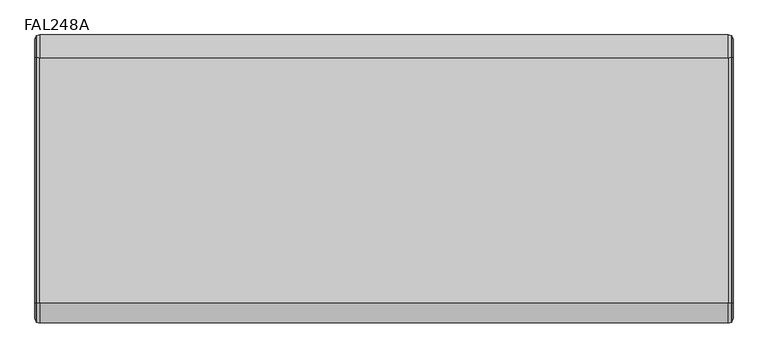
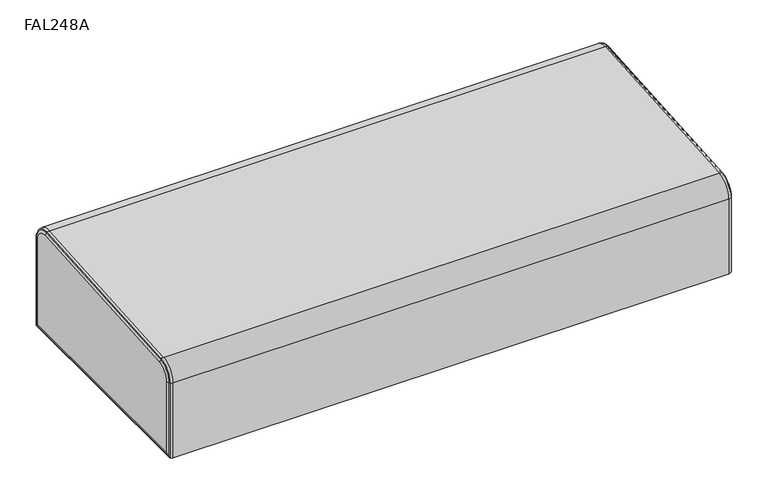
"""IFC4 building model written with IfcOpenShell, lengths in millimetres: furniture geometry, Stance_HC-Flora-Seat_Straight-Double_Side : FAL248A."""

from ifc_helpers import new_model, si_unit, point, frame, origin, place, context, project, spatial, circle_curve, ellipse_curve, trimmed, source, transform, mapped, element, save
from ifc_brep_helpers import plane_surface, cylinder_surface, revolved_surface, advanced_brep


def fal248a_34353e28(model_context):
    return source(origin(), model_context, "Body", "AdvancedBrep", [
        advanced_brep(
        [(8.4841935, 726.7564754, 401.7640675), (1223.4158065, 726.7564754, 401.7640675), (1223.4158065, 726.7564754, 198.4374939), (8.4841935, 726.7564754, 198.4374939), (1223.4158065, 218.7564511, 198.4374939), (8.4841935, 218.7564511, 198.4374939), (1223.4158065, 218.7564511, 371.5696858), (8.4841935, 218.7564511, 371.5696858), (8.4841935, 254.198731, 409.5768762), (1223.4158065, 254.198731, 409.5768762), (1223.4158065, 685.9987552, 439.7712579), (8.4841935, 685.9987552, 439.7712579), (0.0, 718.0252254, 401.7640675), (2.6434528, 723.7181949, 401.7640675), (2.6434528, 723.7181949, 201.4757744), (0.0, 718.0252254, 207.1687439), (2.5810757, 725.6518846, 401.7640675), (2.5810757, 725.6518846, 199.5420847), (2.6434528, 221.7947316, 201.4757744), (0.0, 227.4877011, 207.1687439), (2.5810757, 219.8610419, 199.5420847), (2.6434528, 221.7947316, 371.5696858), (0.0, 227.4877011, 371.5696858), (2.5810757, 219.8610419, 371.5696858), (0.0, 254.8077919, 400.8668951), (2.6434528, 254.4106706, 406.5459969), (2.6434528, 686.2106948, 436.7403786), (0.0, 686.6078161, 431.0612768), (2.5810757, 254.2757833, 408.4749762), (2.5810757, 686.0758075, 438.6693579), (1229.3189243, 725.6518846, 401.7640675), (1229.3189243, 725.6518846, 199.5420847), (1229.2565472, 723.7181949, 401.7640675), (1229.2565472, 723.7181949, 201.4757744), (1231.9, 718.0252254, 401.7640675), (1231.9, 718.0252254, 207.1687439), (1229.3189243, 219.8610419, 199.5420847), (1229.2565472, 221.7947316, 201.4757744), (1231.9, 227.4877011, 207.1687439), (1229.3189243, 219.8610419, 371.5696858), (1229.2565472, 221.7947316, 371.5696858), (1231.9, 227.4877011, 371.5696858), (1229.3189243, 254.2757833, 408.4749762), (1229.3189243, 686.0758075, 438.6693579), (1229.2565472, 254.4106706, 406.5459969), (1229.2565472, 686.2106948, 436.7403786), (1231.9, 254.8077919, 400.8668951), (1231.9, 686.6078161, 431.0612768)],
        [
            (0, 1),
            (1, 2),
            (2, 3),
            (3, 0),
            (2, 4),
            (4, 5),
            (5, 3),
            (4, 6),
            (6, 7),
            (7, 5),
            (8, 9),
            (9, 10),
            (10, 11),
            (11, 8),
            (12, 13, circle_curve(frame((7.4519478, 718.0252254, 401.7640675), z_axis=(0.0, 0.0, -1.0), x_axis=(0.0, 1.0, 0.0)), 7.4519478)),
            (13, 14),
            (14, 15, ellipse_curve(frame((7.4519478, 718.0252254, 207.1687439), z_axis=(0.0, 0.7071067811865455, 0.7071067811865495), x_axis=(0.0, -0.7071067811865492, 0.7071067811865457)), 10.5386456, 7.4519478)),
            (15, 12),
            (13, 16, circle_curve(frame((2.9517888, 724.6959921, 401.7640675), z_axis=(0.0, 0.0, -1.0), x_axis=(0.0, 1.0, 0.0)), 1.0252602)),
            (16, 17),
            (17, 14, ellipse_curve(frame((2.9517888, 724.6959921, 200.4979772), z_axis=(0.0, 0.7071067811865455, 0.7071067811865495), x_axis=(0.0, -0.7071067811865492, 0.7071067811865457)), 1.4499369, 1.0252602)),
            (3, 17, ellipse_curve(frame((8.4841935, 710.4305563, 214.763413), z_axis=(0.0, 0.7071067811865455, 0.7071067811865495), x_axis=(0.0, -0.7071067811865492, 0.7071067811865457)), 23.0883362, 16.3259191)),
            (16, 0, circle_curve(frame((8.4841935, 710.4305563, 401.7640675), z_axis=(0.0, 0.0, -1.0), x_axis=(0.0, 1.0, 0.0)), 16.3259191)),
            (14, 18),
            (18, 19, ellipse_curve(frame((7.4519478, 227.4877011, 207.1687439), z_axis=(0.0, 0.7071067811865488, -0.7071067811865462), x_axis=(0.0, 0.7071067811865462, 0.7071067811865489)), 10.5386456, 7.4519478)),
            (19, 15),
            (17, 20),
            (20, 18, ellipse_curve(frame((2.9517888, 220.8169344, 200.4979772), z_axis=(0.0, 0.7071067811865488, -0.7071067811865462), x_axis=(0.0, 0.7071067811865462, 0.7071067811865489)), 1.4499369, 1.0252602)),
            (5, 20, ellipse_curve(frame((8.4841935, 235.0823702, 214.763413), z_axis=(0.0, 0.7071067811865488, -0.7071067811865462), x_axis=(0.0, 0.7071067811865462, 0.7071067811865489)), 23.0883362, 16.3259191)),
            (18, 21),
            (21, 22, circle_curve(frame((7.4519478, 227.4877011, 371.5696858), z_axis=(0.0, 0.0, -1.0), x_axis=(0.0, -1.0, 0.0)), 7.4519478)),
            (22, 19),
            (20, 23),
            (23, 21, circle_curve(frame((2.9517888, 220.8169344, 371.5696858), z_axis=(0.0, 0.0, -1.0), x_axis=(0.0, -1.0, 0.0)), 1.0252602)),
            (7, 23, circle_curve(frame((8.4841935, 235.0823702, 371.5696858), z_axis=(0.0, 0.0, -1.0), x_axis=(0.0, -1.0, 0.0)), 16.3259191)),
            (24, 25, circle_curve(frame((7.4519478, 254.8077919, 400.8668951), z_axis=(0.0, 0.9975640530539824, 0.06975643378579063), x_axis=(0.0, -0.06975643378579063, 0.9975640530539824)), 7.4519478)),
            (25, 26),
            (26, 27, circle_curve(frame((7.4519478, 686.6078161, 431.0612768), z_axis=(0.0, -0.9975640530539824, -0.06975643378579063), x_axis=(0.0, -0.06975643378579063, 0.9975640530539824)), 7.4519478)),
            (27, 24),
            (25, 28, circle_curve(frame((2.9517888, 254.342463, 407.5214122), z_axis=(0.0, 0.9975640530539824, 0.06975643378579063), x_axis=(0.0, -0.06975643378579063, 0.9975640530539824)), 1.0252602)),
            (28, 29),
            (29, 26, circle_curve(frame((2.9517888, 686.1424872, 437.7157939), z_axis=(0.0, -0.9975640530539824, -0.06975643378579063), x_axis=(0.0, -0.06975643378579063, 0.9975640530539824)), 1.0252602)),
            (11, 29, circle_curve(frame((8.4841935, 687.1375931, 423.4851079), z_axis=(0.0, -0.9975640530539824, -0.06975643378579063), x_axis=(0.0, -0.06975643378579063, 0.9975640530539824)), 16.3259191)),
            (28, 8, circle_curve(frame((8.4841935, 255.3375689, 393.2907262), z_axis=(0.0, 0.9975640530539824, 0.06975643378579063), x_axis=(0.0, -0.06975643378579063, 0.9975640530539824)), 16.3259191)),
            (1, 30, circle_curve(frame((1223.4158065, 710.4305563, 401.7640675), z_axis=(0.0, 0.0, -1.0), x_axis=(0.0, 1.0, 0.0)), 16.3259191)),
            (30, 31),
            (31, 2, ellipse_curve(frame((1223.4158065, 710.4305563, 214.763413), z_axis=(0.0, 0.7071067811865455, 0.7071067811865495), x_axis=(0.0, -0.7071067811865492, 0.7071067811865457)), 23.0883362, 16.3259191)),
            (30, 32, circle_curve(frame((1228.9482112, 724.6959921, 401.7640675), z_axis=(0.0, 0.0, -1.0), x_axis=(0.0, 1.0, 0.0)), 1.0252602)),
            (32, 33),
            (33, 31, ellipse_curve(frame((1228.9482112, 724.6959921, 200.4979772), z_axis=(0.0, 0.7071067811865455, 0.7071067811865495), x_axis=(0.0, -0.7071067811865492, 0.7071067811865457)), 1.4499369, 1.0252602)),
            (32, 34, circle_curve(frame((1224.4480522, 718.0252254, 401.7640675), z_axis=(0.0, 0.0, -1.0), x_axis=(0.0, 1.0, 0.0)), 7.4519478)),
            (34, 35),
            (35, 33, ellipse_curve(frame((1224.4480522, 718.0252254, 207.1687439), z_axis=(0.0, 0.7071067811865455, 0.7071067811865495), x_axis=(0.0, -0.7071067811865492, 0.7071067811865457)), 10.5386456, 7.4519478)),
            (31, 36),
            (36, 4, ellipse_curve(frame((1223.4158065, 235.0823702, 214.763413), z_axis=(0.0, 0.7071067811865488, -0.7071067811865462), x_axis=(0.0, 0.7071067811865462, 0.7071067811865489)), 23.0883362, 16.3259191)),
            (33, 37),
            (37, 36, ellipse_curve(frame((1228.9482112, 220.8169344, 200.4979772), z_axis=(0.0, 0.7071067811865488, -0.7071067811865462), x_axis=(0.0, 0.7071067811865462, 0.7071067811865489)), 1.4499369, 1.0252602)),
            (35, 38),
            (38, 37, ellipse_curve(frame((1224.4480522, 227.4877011, 207.1687439), z_axis=(0.0, 0.7071067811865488, -0.7071067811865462), x_axis=(0.0, 0.7071067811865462, 0.7071067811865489)), 10.5386456, 7.4519478)),
            (36, 39),
            (39, 6, circle_curve(frame((1223.4158065, 235.0823702, 371.5696858), z_axis=(0.0, 0.0, -1.0), x_axis=(0.0, -1.0, 0.0)), 16.3259191)),
            (37, 40),
            (40, 39, circle_curve(frame((1228.9482112, 220.8169344, 371.5696858), z_axis=(0.0, 0.0, -1.0), x_axis=(0.0, -1.0, 0.0)), 1.0252602)),
            (38, 41),
            (41, 40, circle_curve(frame((1224.4480522, 227.4877011, 371.5696858), z_axis=(0.0, 0.0, -1.0), x_axis=(0.0, -1.0, 0.0)), 7.4519478)),
            (9, 42, circle_curve(frame((1223.4158065, 255.3375689, 393.2907262), z_axis=(0.0, 0.9975640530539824, 0.06975643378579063), x_axis=(0.0, -0.06975643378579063, 0.9975640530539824)), 16.3259191)),
            (42, 43),
            (43, 10, circle_curve(frame((1223.4158065, 687.1375931, 423.4851079), z_axis=(0.0, -0.9975640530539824, -0.06975643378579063), x_axis=(0.0, -0.06975643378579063, 0.9975640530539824)), 16.3259191)),
            (42, 44, circle_curve(frame((1228.9482112, 254.342463, 407.5214122), z_axis=(0.0, 0.9975640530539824, 0.06975643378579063), x_axis=(0.0, -0.06975643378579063, 0.9975640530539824)), 1.0252602)),
            (44, 45),
            (45, 43, circle_curve(frame((1228.9482112, 686.1424872, 437.7157939), z_axis=(0.0, -0.9975640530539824, -0.06975643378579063), x_axis=(0.0, -0.06975643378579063, 0.9975640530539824)), 1.0252602)),
            (44, 46, circle_curve(frame((1224.4480522, 254.8077919, 400.8668951), z_axis=(0.0, 0.9975640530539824, 0.06975643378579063), x_axis=(0.0, -0.06975643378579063, 0.9975640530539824)), 7.4519478)),
            (46, 47),
            (47, 45, circle_curve(frame((1224.4480522, 686.6078161, 431.0612768), z_axis=(0.0, -0.9975640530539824, -0.06975643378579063), x_axis=(0.0, -0.06975643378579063, 0.9975640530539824)), 7.4519478)),
            (1, 10, circle_curve(frame((1223.4158065, 688.6564754, 401.7640675), z_axis=(1.0, 0.0, 0.0), x_axis=(0.0, -0.06975643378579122, 0.9975640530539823)), 38.1)),
            (43, 30, circle_curve(frame((1229.3189243, 688.6564754, 401.7640675), z_axis=(-1.0, 0.0, 0.0), x_axis=(0.0, -0.06975643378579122, 0.9975640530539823)), 36.9954092)),
            (45, 32, circle_curve(frame((1229.2565472, 688.6564754, 401.7640675), z_axis=(-1.0, 0.0, 0.0), x_axis=(0.0, -0.06975643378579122, 0.9975640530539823)), 35.0617195)),
            (47, 34, circle_curve(frame((1231.9, 688.6564754, 401.7640675), z_axis=(-1.0, 0.0, 0.0), x_axis=(0.0, -0.06975643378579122, 0.9975640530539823)), 29.36875)),
            (12, 27, circle_curve(frame((0.0, 688.6564754, 401.7640675), z_axis=(1.0, 0.0, 0.0), x_axis=(0.0, -0.06975643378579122, 0.9975640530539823)), 29.36875)),
            (26, 13, circle_curve(frame((2.6434528, 688.6564754, 401.7640675), z_axis=(-1.0, 0.0, 0.0), x_axis=(0.0, -0.06975643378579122, 0.9975640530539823)), 35.0617195)),
            (29, 16, circle_curve(frame((2.5810757, 688.6564754, 401.7640675), z_axis=(-1.0, 0.0, 0.0), x_axis=(0.0, -0.06975643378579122, 0.9975640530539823)), 36.9954092)),
            (11, 0, circle_curve(frame((8.4841935, 688.6564754, 401.7640675), z_axis=(-1.0, 0.0, 0.0), x_axis=(0.0, -0.06975643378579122, 0.9975640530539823)), 38.1)),
            (39, 42, circle_curve(frame((1229.3189243, 256.8564511, 371.5696858), z_axis=(-1.0, 0.0, 0.0), x_axis=(0.0, -1.0, 0.0)), 36.9954092)),
            (9, 6, circle_curve(frame((1223.4158065, 256.8564511, 371.5696858), z_axis=(1.0, 0.0, 0.0), x_axis=(0.0, -1.0, 0.0)), 38.1)),
            (40, 44, circle_curve(frame((1229.2565472, 256.8564511, 371.5696858), z_axis=(-1.0, 0.0, 0.0), x_axis=(0.0, -1.0, 0.0)), 35.0617195)),
            (41, 46, circle_curve(frame((1231.9, 256.8564511, 371.5696858), z_axis=(-1.0, 0.0, 0.0), x_axis=(0.0, -1.0, 0.0)), 29.36875)),
            (21, 25, circle_curve(frame((2.6434528, 256.8564511, 371.5696858), z_axis=(-1.0, 0.0, 0.0), x_axis=(0.0, -1.0, 0.0)), 35.0617195)),
            (24, 22, circle_curve(frame((0.0, 256.8564511, 371.5696858), z_axis=(1.0, 0.0, 0.0), x_axis=(0.0, -1.0, 0.0)), 29.36875)),
            (23, 28, circle_curve(frame((2.5810757, 256.8564511, 371.5696858), z_axis=(-1.0, 0.0, 0.0), x_axis=(0.0, -1.0, 0.0)), 36.9954092)),
            (7, 8, circle_curve(frame((8.4841935, 256.8564511, 371.5696858), z_axis=(-1.0, 0.0, 0.0), x_axis=(0.0, -1.0, 0.0)), 38.1)),
        ],
        [
            plane_surface(frame((1223.4158065, 726.7564754, 401.7640675), z_axis=(0.0, 1.0, 0.0), x_axis=(0.0, 0.0, -1.0))),
            plane_surface(frame((1223.4158065, 726.7564754, 198.4374939), z_axis=(0.0, 0.0, -1.0), x_axis=(0.0, -1.0, 0.0))),
            plane_surface(frame((1223.4158065, 218.7564511, 198.4374939), z_axis=(0.0, -1.0, 0.0), x_axis=(0.0, 0.0, 1.0))),
            plane_surface(frame((1223.4158065, 254.198731, 409.5768762), z_axis=(0.0, -0.06975643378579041, 0.9975640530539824), x_axis=(0.0, 0.9975640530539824, 0.06975643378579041))),
            cylinder_surface(frame((7.4519478, 718.0252254, 401.7640675), z_axis=(0.0, 0.0, 1.0), x_axis=(0.0, 1.0, 0.0)), 7.4519478),
            cylinder_surface(frame((2.9517888, 724.6959921, 401.7640675), z_axis=(0.0, 0.0, 1.0), x_axis=(0.0, 1.0, 0.0)), 1.0252602),
            cylinder_surface(frame((8.4841935, 710.4305563, 401.7640675), z_axis=(0.0, 0.0, 1.0), x_axis=(0.0, 1.0, 0.0)), 16.3259191),
            cylinder_surface(frame((7.4519478, 726.7564754, 207.1687439), z_axis=(0.0, 1.0, 0.0), x_axis=(0.0, 0.0, -1.0)), 7.4519478),
            cylinder_surface(frame((2.9517888, 726.7564754, 200.4979772), z_axis=(0.0, 1.0, 0.0), x_axis=(0.0, 0.0, -1.0)), 1.0252602),
            cylinder_surface(frame((8.4841935, 726.7564754, 214.763413), z_axis=(0.0, 1.0, 0.0), x_axis=(0.0, 0.0, -1.0)), 16.3259191),
            cylinder_surface(frame((7.4519478, 227.4877011, 198.4374939), z_axis=(0.0, 0.0, -1.0), x_axis=(0.0, -1.0, 0.0)), 7.4519478),
            cylinder_surface(frame((2.9517888, 220.8169344, 198.4374939), z_axis=(0.0, 0.0, -1.0), x_axis=(0.0, -1.0, 0.0)), 1.0252602),
            cylinder_surface(frame((8.4841935, 235.0823702, 198.4374939), z_axis=(0.0, 0.0, -1.0), x_axis=(0.0, -1.0, 0.0)), 16.3259191),
            cylinder_surface(frame((7.4519478, 254.8077919, 400.8668951), z_axis=(0.0, -0.9975640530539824, -0.06975643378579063), x_axis=(0.0, -0.06975643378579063, 0.9975640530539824)), 7.4519478),
            cylinder_surface(frame((2.9517888, 254.342463, 407.5214122), z_axis=(0.0, -0.9975640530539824, -0.06975643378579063), x_axis=(0.0, -0.06975643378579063, 0.9975640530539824)), 1.0252602),
            cylinder_surface(frame((8.4841935, 255.3375689, 393.2907262), z_axis=(0.0, -0.9975640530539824, -0.06975643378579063), x_axis=(0.0, -0.06975643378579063, 0.9975640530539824)), 16.3259191),
            cylinder_surface(frame((1223.4158065, 710.4305563, 401.7640675), z_axis=(0.0, 0.0, 1.0), x_axis=(0.0, 1.0, 0.0)), 16.3259191),
            cylinder_surface(frame((1228.9482112, 724.6959921, 401.7640675), z_axis=(0.0, 0.0, 1.0), x_axis=(0.0, 1.0, 0.0)), 1.0252602),
            cylinder_surface(frame((1224.4480522, 718.0252254, 401.7640675), z_axis=(0.0, 0.0, 1.0), x_axis=(0.0, 1.0, 0.0)), 7.4519478),
            cylinder_surface(frame((1223.4158065, 726.7564754, 214.763413), z_axis=(0.0, 1.0, 0.0), x_axis=(0.0, 0.0, -1.0)), 16.3259191),
            cylinder_surface(frame((1228.9482112, 726.7564754, 200.4979772), z_axis=(0.0, 1.0, 0.0), x_axis=(0.0, 0.0, -1.0)), 1.0252602),
            cylinder_surface(frame((1224.4480522, 726.7564754, 207.1687439), z_axis=(0.0, 1.0, 0.0), x_axis=(0.0, 0.0, -1.0)), 7.4519478),
            cylinder_surface(frame((1223.4158065, 235.0823702, 198.4374939), z_axis=(0.0, 0.0, -1.0), x_axis=(0.0, -1.0, 0.0)), 16.3259191),
            cylinder_surface(frame((1228.9482112, 220.8169344, 198.4374939), z_axis=(0.0, 0.0, -1.0), x_axis=(0.0, -1.0, 0.0)), 1.0252602),
            cylinder_surface(frame((1224.4480522, 227.4877011, 198.4374939), z_axis=(0.0, 0.0, -1.0), x_axis=(0.0, -1.0, 0.0)), 7.4519478),
            cylinder_surface(frame((1223.4158065, 255.3375689, 393.2907262), z_axis=(0.0, -0.9975640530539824, -0.06975643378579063), x_axis=(0.0, -0.06975643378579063, 0.9975640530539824)), 16.3259191),
            cylinder_surface(frame((1228.9482112, 254.342463, 407.5214122), z_axis=(0.0, -0.9975640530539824, -0.06975643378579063), x_axis=(0.0, -0.06975643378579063, 0.9975640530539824)), 1.0252602),
            cylinder_surface(frame((1224.4480522, 254.8077919, 400.8668951), z_axis=(0.0, -0.9975640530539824, -0.06975643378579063), x_axis=(0.0, -0.06975643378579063, 0.9975640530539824)), 7.4519478),
            revolved_surface(trimmed(ellipse_curve(frame((1223.4158065, 687.1375931, 423.4851079), z_axis=(0.0, -0.9975640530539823, -0.06975643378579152), x_axis=(0.0, -0.06975643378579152, 0.9975640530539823)), 16.3259191, 16.3259191), [point((1229.3189243, 686.0758075, 438.6693579))], [point((1223.4158065, 685.9987552, 439.7712579))], True, "CARTESIAN"), (0.0, 688.6564754, 401.7640675), (-1.0, 0.0, 0.0)),
            revolved_surface(trimmed(ellipse_curve(frame((1228.9482112, 686.1424872, 437.7157939), z_axis=(0.0, -0.9975640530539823, -0.06975643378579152), x_axis=(0.0, -0.06975643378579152, 0.9975640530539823)), 1.0252602, 1.0252602), [point((1229.2565472, 686.2106948, 436.7403786))], [point((1229.3189243, 686.0758075, 438.6693579))], True, "CARTESIAN"), (0.0, 688.6564754, 401.7640675), (-1.0, 0.0, 0.0)),
            revolved_surface(trimmed(ellipse_curve(frame((1224.4480522, 686.6078161, 431.0612768), z_axis=(0.0, -0.9975640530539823, -0.06975643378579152), x_axis=(0.0, -0.06975643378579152, 0.9975640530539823)), 7.4519478, 7.4519478), [point((1231.9, 686.6078161, 431.0612768))], [point((1229.2565472, 686.2106948, 436.7403786))], True, "CARTESIAN"), (0.0, 688.6564754, 401.7640675), (-1.0, 0.0, 0.0)),
            revolved_surface(trimmed(ellipse_curve(frame((7.4519478, 686.6078161, 431.0612768), z_axis=(0.0, -0.9975640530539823, -0.06975643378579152), x_axis=(0.0, -0.06975643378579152, 0.9975640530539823)), 7.4519478, 7.4519478), [point((2.6434528, 686.2106948, 436.7403786))], [point((0.0, 686.6078161, 431.0612768))], True, "CARTESIAN"), (0.0, 688.6564754, 401.7640675), (-1.0, 0.0, 0.0)),
            revolved_surface(trimmed(ellipse_curve(frame((2.9517888, 686.1424872, 437.7157939), z_axis=(0.0, -0.9975640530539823, -0.06975643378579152), x_axis=(0.0, -0.06975643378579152, 0.9975640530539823)), 1.0252602, 1.0252602), [point((2.5810757, 686.0758075, 438.6693579))], [point((2.6434528, 686.2106948, 436.7403786))], True, "CARTESIAN"), (0.0, 688.6564754, 401.7640675), (-1.0, 0.0, 0.0)),
            revolved_surface(trimmed(ellipse_curve(frame((8.4841935, 687.1375931, 423.4851079), z_axis=(0.0, -0.9975640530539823, -0.06975643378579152), x_axis=(0.0, -0.06975643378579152, 0.9975640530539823)), 16.3259191, 16.3259191), [point((8.4841935, 685.9987552, 439.7712579))], [point((2.5810757, 686.0758075, 438.6693579))], True, "CARTESIAN"), (0.0, 688.6564754, 401.7640675), (-1.0, 0.0, 0.0)),
            cylinder_surface(frame((0.0, 688.6564754, 401.7640675), z_axis=(-1.0, 0.0, 0.0), x_axis=(0.0, -0.06975643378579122, 0.9975640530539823)), 38.1),
            revolved_surface(trimmed(ellipse_curve(frame((1223.4158065, 235.0823702, 371.5696858), z_axis=(0.0, 0.0, -1.0), x_axis=(0.0, -1.0, 0.0)), 16.3259191, 16.3259191), [point((1229.3189243, 219.8610419, 371.5696858))], [point((1223.4158065, 218.7564511, 371.5696858))], True, "CARTESIAN"), (0.0, 256.8564511, 371.5696858), (-1.0, 0.0, 0.0)),
            revolved_surface(trimmed(ellipse_curve(frame((1228.9482112, 220.8169344, 371.5696858), z_axis=(0.0, 0.0, -1.0), x_axis=(0.0, -1.0, 0.0)), 1.0252602, 1.0252602), [point((1229.2565472, 221.7947316, 371.5696858))], [point((1229.3189243, 219.8610419, 371.5696858))], True, "CARTESIAN"), (0.0, 256.8564511, 371.5696858), (-1.0, 0.0, 0.0)),
            revolved_surface(trimmed(ellipse_curve(frame((1224.4480522, 227.4877011, 371.5696858), z_axis=(0.0, 0.0, -1.0), x_axis=(0.0, -1.0, 0.0)), 7.4519478, 7.4519478), [point((1231.9, 227.4877011, 371.5696858))], [point((1229.2565472, 221.7947316, 371.5696858))], True, "CARTESIAN"), (0.0, 256.8564511, 371.5696858), (-1.0, 0.0, 0.0)),
            revolved_surface(trimmed(ellipse_curve(frame((7.4519478, 227.4877011, 371.5696858), z_axis=(0.0, 0.0, -1.0), x_axis=(0.0, -1.0, 0.0)), 7.4519478, 7.4519478), [point((2.6434528, 221.7947316, 371.5696858))], [point((0.0, 227.4877011, 371.5696858))], True, "CARTESIAN"), (0.0, 256.8564511, 371.5696858), (-1.0, 0.0, 0.0)),
            revolved_surface(trimmed(ellipse_curve(frame((2.9517888, 220.8169344, 371.5696858), z_axis=(0.0, 0.0, -1.0), x_axis=(0.0, -1.0, 0.0)), 1.0252602, 1.0252602), [point((2.5810757, 219.8610419, 371.5696858))], [point((2.6434528, 221.7947316, 371.5696858))], True, "CARTESIAN"), (0.0, 256.8564511, 371.5696858), (-1.0, 0.0, 0.0)),
            revolved_surface(trimmed(ellipse_curve(frame((8.4841935, 235.0823702, 371.5696858), z_axis=(0.0, 0.0, -1.0), x_axis=(0.0, -1.0, 0.0)), 16.3259191, 16.3259191), [point((8.4841935, 218.7564511, 371.5696858))], [point((2.5810757, 219.8610419, 371.5696858))], True, "CARTESIAN"), (0.0, 256.8564511, 371.5696858), (-1.0, 0.0, 0.0)),
            cylinder_surface(frame((0.0, 256.8564511, 371.5696858), z_axis=(-1.0, 0.0, 0.0), x_axis=(0.0, -1.0, 0.0)), 38.1),
            plane_surface(frame((1231.9, 227.4877011, 371.5696858), z_axis=(1.0, 0.0, 0.0), x_axis=(0.0, 0.0, -1.0))),
            plane_surface(frame((0.0, 227.4877011, 371.5696858), z_axis=(-1.0, 0.0, 0.0), x_axis=(0.0, 0.0, 1.0))),
        ],
        [
            (0, [[1, 2, 3, 4]]),
            (1, [[-3, 5, 6, 7]]),
            (2, [[-6, 8, 9, 10]]),
            (3, [[11, 12, 13, 14]]),
            (4, [[15, 16, 17, 18]]),
            (5, [[-16, 19, 20, 21]]),
            (6, [[-4, 22, -20, 23]]),
            (7, [[-17, 24, 25, 26]]),
            (8, [[-21, 27, 28, -24]]),
            (9, [[-7, 29, -27, -22]]),
            (10, [[-25, 30, 31, 32]]),
            (11, [[-28, 33, 34, -30]]),
            (12, [[-10, 35, -33, -29]]),
            (13, [[36, 37, 38, 39]]),
            (14, [[-37, 40, 41, 42]]),
            (15, [[-14, 43, -41, 44]]),
            (16, [[-2, 45, 46, 47]]),
            (17, [[-46, 48, 49, 50]]),
            (18, [[-49, 51, 52, 53]]),
            (19, [[-5, -47, 54, 55]]),
            (20, [[-50, 56, 57, -54]]),
            (21, [[-53, 58, 59, -56]]),
            (22, [[-8, -55, 60, 61]]),
            (23, [[-57, 62, 63, -60]]),
            (24, [[-59, 64, 65, -62]]),
            (25, [[-12, 66, 67, 68]]),
            (26, [[-67, 69, 70, 71]]),
            (27, [[-70, 72, 73, 74]]),
            (28, [[-45, 75, -68, 76]]),
            (29, [[-48, -76, -71, 77]]),
            (30, [[-51, -77, -74, 78]]),
            (31, [[-15, 79, -38, 80]]),
            (32, [[-19, -80, -42, 81]]),
            (33, [[-23, -81, -43, 82]]),
            (34, [[-1, -82, -13, -75]]),
            (35, [[-61, 83, -66, 84]]),
            (36, [[-63, 85, -69, -83]]),
            (37, [[-65, 86, -72, -85]]),
            (38, [[-31, 87, -36, 88]]),
            (39, [[-34, 89, -40, -87]]),
            (40, [[-35, 90, -44, -89]]),
            (41, [[-9, -84, -11, -90]]),
            (42, [[-52, -78, -73, -86, -64, -58]]),
            (43, [[-18, -26, -32, -88, -39, -79]]),
        ],
    ),
    ])


if __name__ == "__main__":
    model = new_model("IFC4")
    model_context = context("Model", 3, world=origin())
    ifc_project = project(units=[si_unit("LENGTHUNIT", "METRE", prefix="MILLI")], contexts=[model_context])
    site = spatial("IfcSite", under=ifc_project)
    building = spatial("IfcBuilding", under=site)
    placement = place(None, origin())
    fal248a_shape = fal248a_34353e28(model_context)
    element("IfcFurniture", 1, ObjectType="Stance_HC-Flora-Seat_Straight-Double_Side : FAL248A", at=placement, inside=building, context=model_context, shape_type="MappedRepresentation", body=[
        mapped(fal248a_shape, transform((0.0, 0.0, 0.0), x_axis=(1.0, 0.0, 0.0), y_axis=(0.0, 1.0, 0.0), z_axis=(0.0, 0.0, 1.0))),
    ])
    save(model, "model.ifc")
